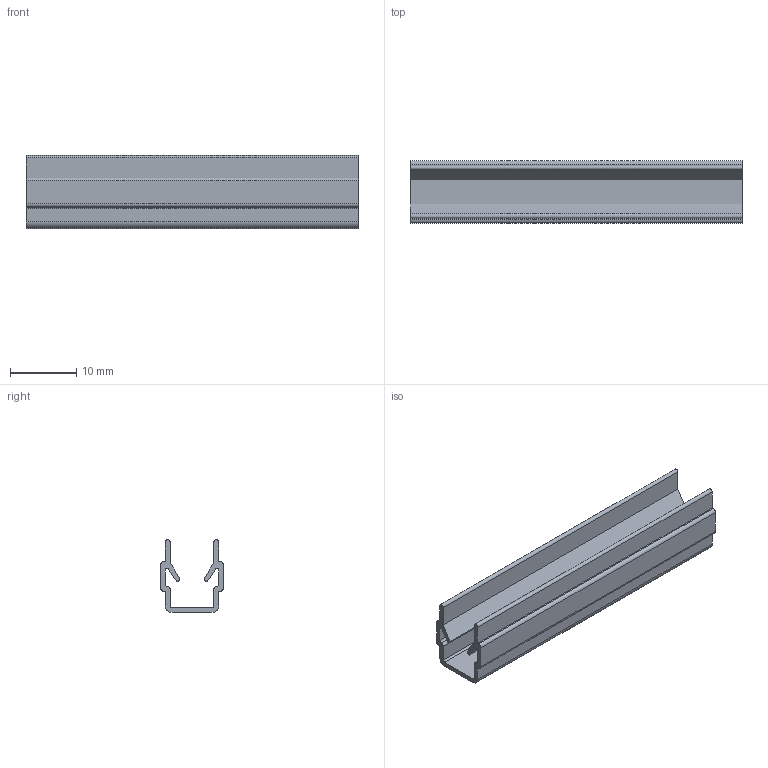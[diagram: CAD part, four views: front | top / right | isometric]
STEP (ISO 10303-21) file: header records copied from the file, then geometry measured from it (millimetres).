
FILE_DESCRIPTION (( 'STEP AP203' ), '1' );
FILE_NAME ('0108AEPN.STEP', '2024-03-13T12:26:41', ( 'Windows-Benutzer' ), ( '' ), 'SwSTEP 2.0', 'SolidWorks 2023', '' );
FILE_SCHEMA (( 'CONFIG_CONTROL_DESIGN' ));
Length unit declared in the file: millimetre
Products named in the file (1): 0108AEPN
Bounding box: 50 x 9.4 x 11 mm (x, y, z)
Volume: 1261.4 mm3; surface area: 3556.5 mm2
Topology: 1 solids, 1 shells, 46 faces, 132 edges, 88 vertices
Faces by surface type: cylinder 24, plane 22
Entity records: 1601 total; most frequent: DIRECTION 274, CARTESIAN_POINT 267, ORIENTED_EDGE 264, EDGE_CURVE 132, AXIS2_PLACEMENT_3D 95, VERTEX_POINT 88, LINE 84, VECTOR 84
